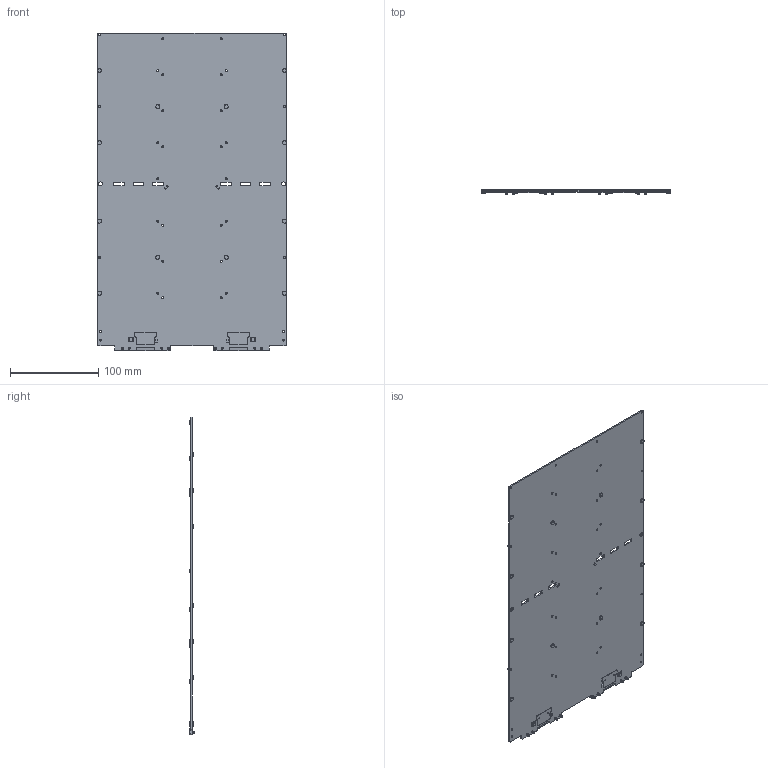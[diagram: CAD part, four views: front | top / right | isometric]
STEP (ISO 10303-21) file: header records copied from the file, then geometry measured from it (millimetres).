
FILE_DESCRIPTION (( 'STEP AP214' ), '1' );
FILE_NAME ('710-01269 SUPERNOVA 24 Cell Panel Opt 00.STEP', '2017-02-10T02:36:25', ( '' ), ( '' ), 'SwSTEP 2.0', 'SolidWorks 2014', '' );
FILE_SCHEMA (( 'AUTOMOTIVE_DESIGN' ));
Length unit declared in the file: inch
Products named in the file (2): 710-01269 SUPERNOVA 24 Cell Panel Opt 00
Bounding box: 214.12 x 6.57 x 360.17 mm (x, y, z)
Volume: 136071.3 mm3; surface area: 158389.2 mm2
Topology: 1 solids, 1 shells, 2603 faces, 6607 edges, 4228 vertices
Faces by surface type: plane 1254, cylinder 725, cone 576, torus 44, bspline 4
Entity records: 87000 total; most frequent: CARTESIAN_POINT 14294, DIRECTION 14119, ORIENTED_EDGE 13214, EDGE_CURVE 6607, AXIS2_PLACEMENT_3D 4945, LINE 4229, VECTOR 4229, VERTEX_POINT 4228
